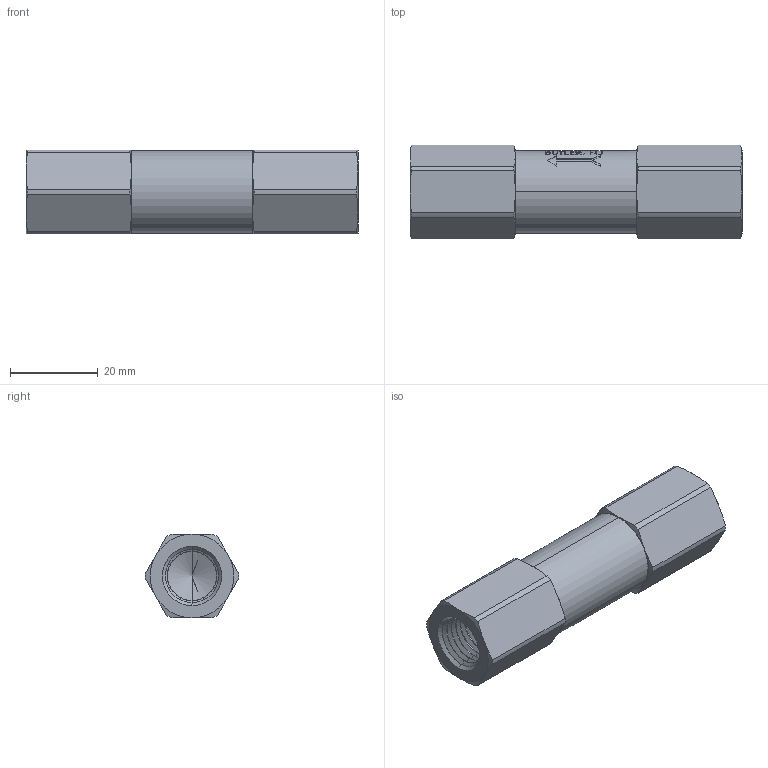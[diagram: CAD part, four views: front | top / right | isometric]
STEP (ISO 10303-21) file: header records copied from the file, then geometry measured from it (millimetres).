
FILE_DESCRIPTION (( 'STEP AP203' ), '1' );
FILE_NAME ('ACV-4F.STEP', '2013-04-10T18:23:18', ( '' ), ( '' ), 'SwSTEP 2.0', 'SolidWorks 2011', '' );
FILE_SCHEMA (( 'CONFIG_CONTROL_DESIGN' ));
Length unit declared in the file: inch
Products named in the file (2): ACV-4F; Part32^ACV-4F_CM
Assembly tree (1 placements, depth 2):
  ACV-4F
    Part32^ACV-4F_CM
Bounding box: 75.69 x 21.33 x 19.05 mm (x, y, z)
Volume: 19338.1 mm3; surface area: 7127 mm2
Topology: 1 solids, 1 shells, 413 faces, 1002 edges, 614 vertices
Faces by surface type: plane 146, cone 136, bspline 70, cylinder 61
Entity records: 16714 total; most frequent: CARTESIAN_POINT 7435, ORIENTED_EDGE 1996, DIRECTION 1716, EDGE_CURVE 998, AXIS2_PLACEMENT_3D 657, VERTEX_POINT 614, EDGE_LOOP 440, ADVANCED_FACE 413
